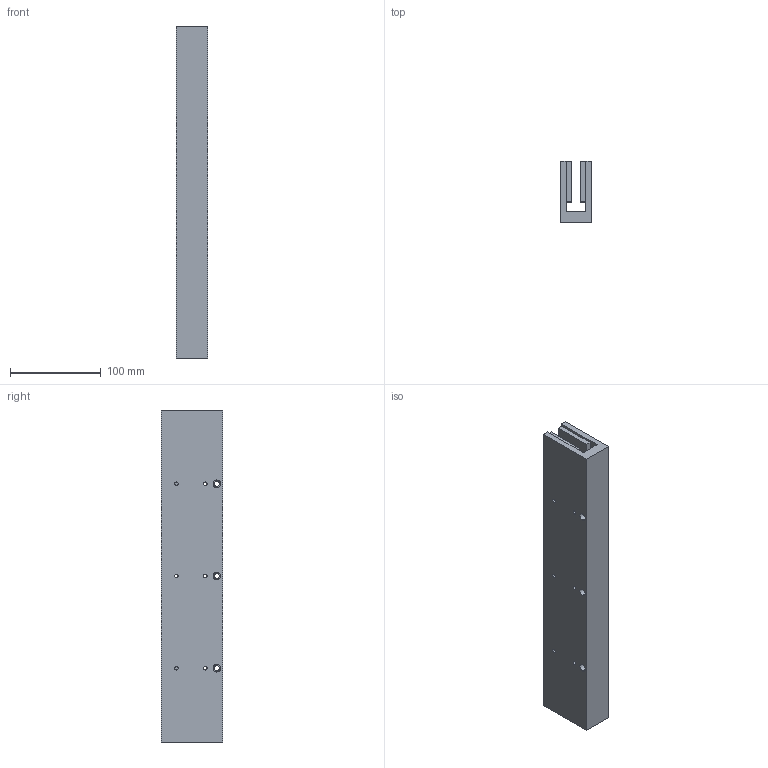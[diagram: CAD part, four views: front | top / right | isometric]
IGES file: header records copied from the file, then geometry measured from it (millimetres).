
Global section: file name: No Iges File Name specified; native system: Autodesk Inventor 2009; preprocessor: AutoDesk Inventor Iges Exporter R2009; author: je17857; date: 20091116.111451; units: inch
Bounding box: 34.29 x 67.31 x 365.76 mm (x, y, z)
Volume: 547771.7 mm3; surface area: 138593.9 mm2
Topology: 1 solids, 1 shells, 182 faces, 438 edges, 292 vertices
Faces by surface type: plane 134, bspline 48
